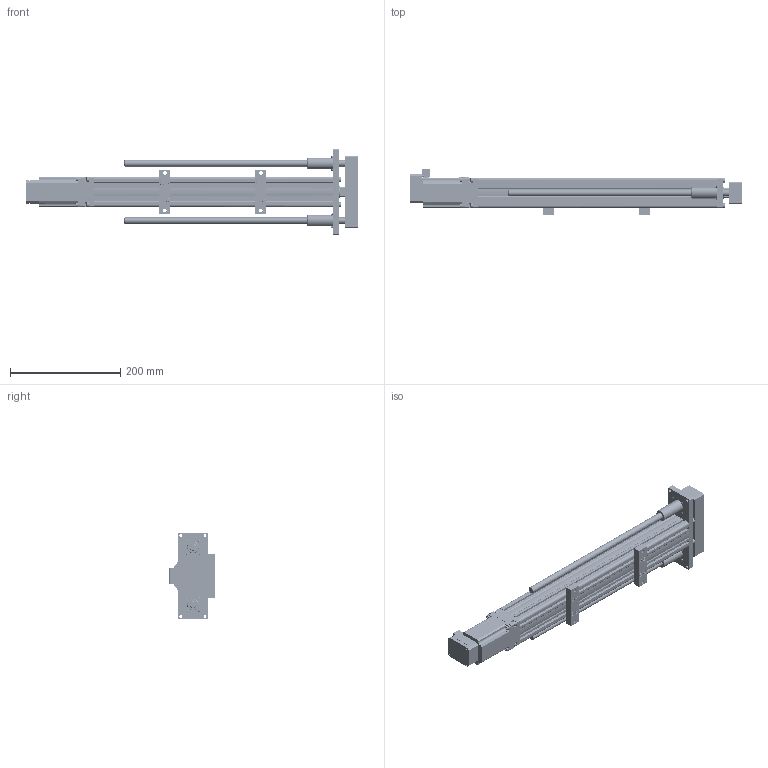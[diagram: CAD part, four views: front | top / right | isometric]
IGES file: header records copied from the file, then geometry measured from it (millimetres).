
Start section: SolidWorks IGES file using analytic representation for surfaces
Global section: file name: C:\Users\render\Documents\CAD Files\Integrated-Actuators\RD-Series\RD-55T-02-300-23L20C-C-G-BRK\Final-Assembley\BSU-55-300.IGS; native system: SolidWorks 2011; preprocessor: SolidWorks 2011; author: render; date: 120525.152947; units: millimetre
Bounding box: 602.8 x 82.31 x 157 mm (x, y, z)
Surface area: 379558.7 mm2 (no closed solid volume)
Topology: 0 solids, 0 shells, 3967 faces, 71235 edges, 71195 vertices
Faces by surface type: revolution 2678, bspline 1289
